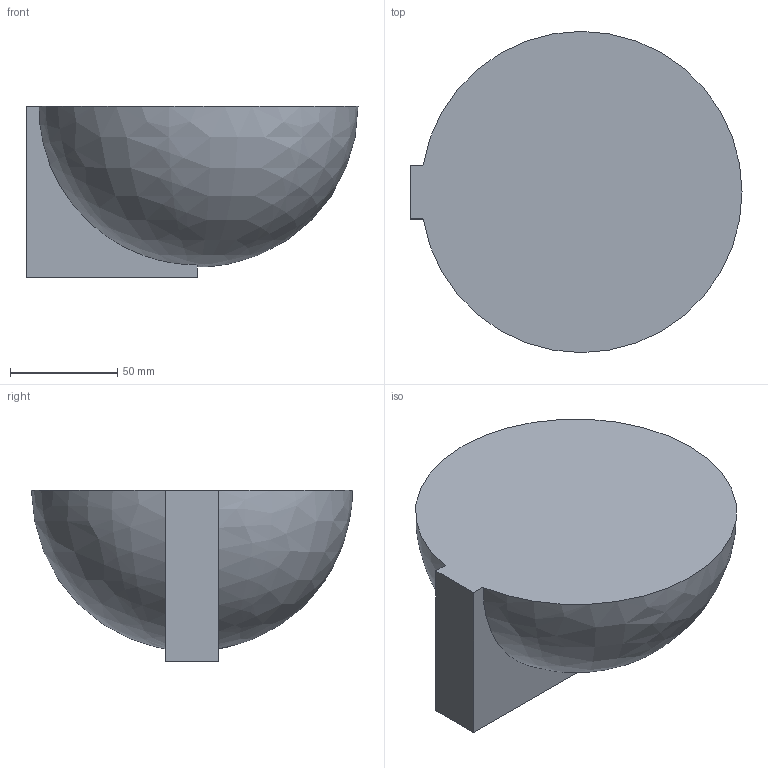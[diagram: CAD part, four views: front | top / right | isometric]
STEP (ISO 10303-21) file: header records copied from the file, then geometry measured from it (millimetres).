
FILE_DESCRIPTION(/* description */ (''),/* implementation_level */ '2;1');
FILE_NAME(/* name */ 'CUP Simplified 3D.step',/* time_stamp */ '2024-04-02T11:34:04+01:00',/* author */ (''),/* organization */ (''),/* preprocessor_version */ 'ST-DEVELOPER v20',/* originating_system */ 'Autodesk Translation Framework v12.20.1.177',/* authorisation */ '');
FILE_SCHEMA (('AUTOMOTIVE_DESIGN { 1 0 10303 214 3 1 1 }'));
Length unit declared in the file: millimetre
Products named in the file (1): CUP Simplified 3D
Bounding box: 155 x 150 x 80 mm (x, y, z)
Volume: 937995.7 mm3; surface area: 58628.9 mm2
Topology: 1 solids, 1 shells, 7 faces, 17 edges, 11 vertices
Faces by surface type: plane 6, bspline 1
Entity records: 340 total; most frequent: CARTESIAN_POINT 149, ORIENTED_EDGE 32, DIRECTION 31, EDGE_CURVE 16, LINE 11, VECTOR 11, VERTEX_POINT 11, AXIS2_PLACEMENT_3D 10
